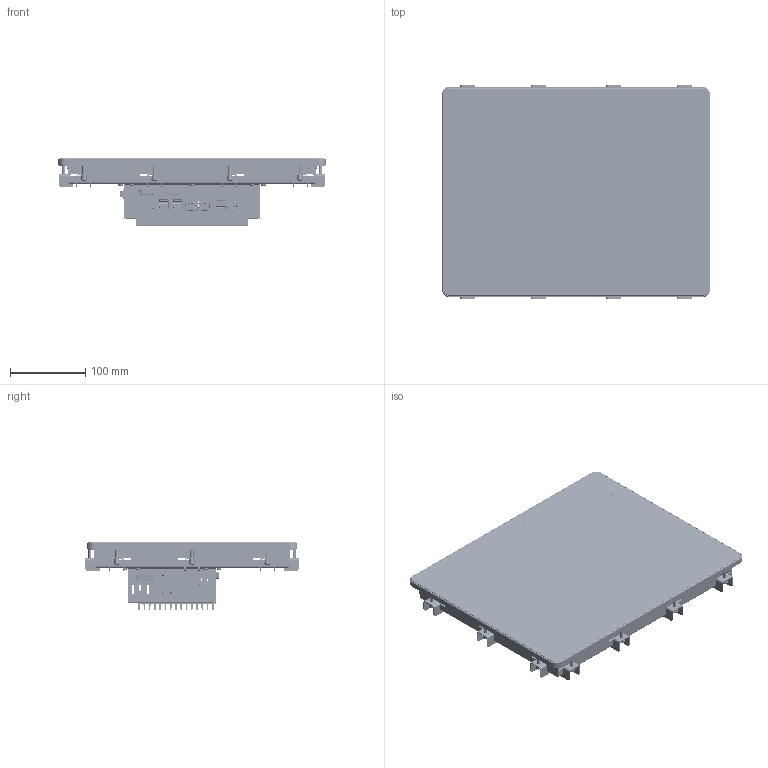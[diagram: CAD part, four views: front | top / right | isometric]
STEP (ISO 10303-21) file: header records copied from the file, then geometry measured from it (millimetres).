
FILE_DESCRIPTION (( 'STEP AP203' ), '1' );
FILE_NAME ('S150S-00 assembly.STEP', '2026-07-15T14:42:43', ( '' ), ( '' ), 'SwSTEP 2.0', 'SolidWorks 2025', '' );
FILE_SCHEMA (( 'CONFIG_CONTROL_DESIGN' ));
Length unit declared in the file: millimetre
Products named in the file (25): BCS-ALN35-10 Backcover; Pakking 8x2 celrubber^S150S-00 assembly; S150S-00 assembly; DIN EN ISO 7046-1 - M3 x 6 - Z - 6N_DIN EN ISO 7046-1 - M3 x 6 - Z - 6N; S150S-10 Bezel; DIN EN ISO 7045 - M3 x 4 - Z - 4N_DIN EN ISO 7045 - M3 x 4 - Z - 4N; TF-F-M3 Inpersmoer; SO-3,5M3-6-ZI Inpersafstandsteun; MPS-150-10 Mounting plate; Samsung 2,5'''' 870EVO; CMI G150XNE-L03; MBR-10 Mounting bracket; PPCS-ALN35-00 Small backcover assembly; DIN EN ISO 7045 - M4 x 20 - Z - 20N_DIN EN ISO 7045 - M4 x 20 - Z - 20N; IOPC-10 Power button panelmount connector; SSD-04 Bracket ALN35; ALN-With_heatsink; ALN35-11 Montagebeugel; LE-374_RS232_RS 446-462; SO4-M4-6 Inpersafstandsteun; EG-15-319-0403V1; Rocker switch
Assembly tree (77 placements, depth 4):
  S150S-00 assembly
    S150S-10 Bezel
    MPS-150-10 Mounting plate
      MPS-150-10 Mounting plate
      TF-F-M3 Inpersmoer  x10
    EG-15-319-0403V1
    CMI G150XNE-L03
    PPCS-ALN35-00 Small backcover assembly
      BCS-ALN35-10 Backcover
        BCS-ALN35-10 Backcover
        SO-3,5M3-6-ZI Inpersafstandsteun  x4
      ALN-With_heatsink
      ALN35-11 Montagebeugel  x2
      Rocker switch
      IOPC-10 Power button panelmount connector
      LE-374_RS232_RS 446-462  x2
      Samsung 2,5'''' 870EVO
      SSD-04 Bracket ALN35
    Pakking 8x2 celrubber^S150S-00 assembly
    MBR-10 Mounting bracket  x14
      MBR-10 Mounting bracket
      SO4-M4-6 Inpersafstandsteun
      DIN EN ISO 7045 - M4 x 20 - Z - 20N_DIN EN ISO 7045 - M4 x 20 - Z - 20N
    DIN EN ISO 7045 - M3 x 4 - Z - 4N_DIN EN ISO 7045 - M3 x 4 - Z - 4N  x10
    DIN EN ISO 7046-1 - M3 x 6 - Z - 6N_DIN EN ISO 7046-1 - M3 x 6 - Z - 6N  x18
Bounding box: 356 x 283.5 x 89.86 mm (x, y, z)
Volume: 1402632.5 mm3; surface area: 954448.9 mm2
Topology: 100 solids, 278 shells, 6126 faces, 24151 edges, 18082 vertices
Faces by surface type: plane 4089, cylinder 1383, cone 384, torus 125, bspline 117, sphere 28
Full cylindrical faces by diameter (mm): 0.92 x18, 1.95 x2, 2.5 x34, 3 x36, 3.2 x18, 3.5 x9, 4 x28, 4.3 x10, 4.5 x1, 4.75 x18, 5.4 x4, 5.49 x4, 5.5 x18, 5.6 x10, 6.5 x2, 7.1 x14, 7.22 x14, 8 x14
Entity records: 201906 total; most frequent: CARTESIAN_POINT 60014, ORIENTED_EDGE 26330, DIRECTION 24469, EDGE_CURVE 18706, VERTEX_POINT 14825, LINE 10461, VECTOR 10461, AXIS2_PLACEMENT_3D 7004
